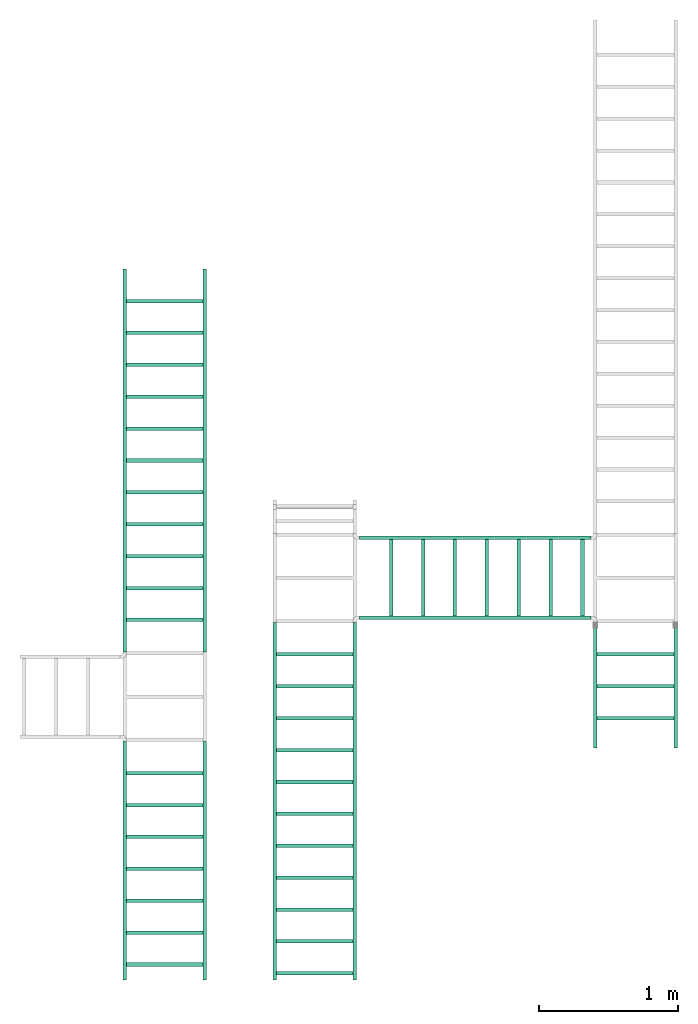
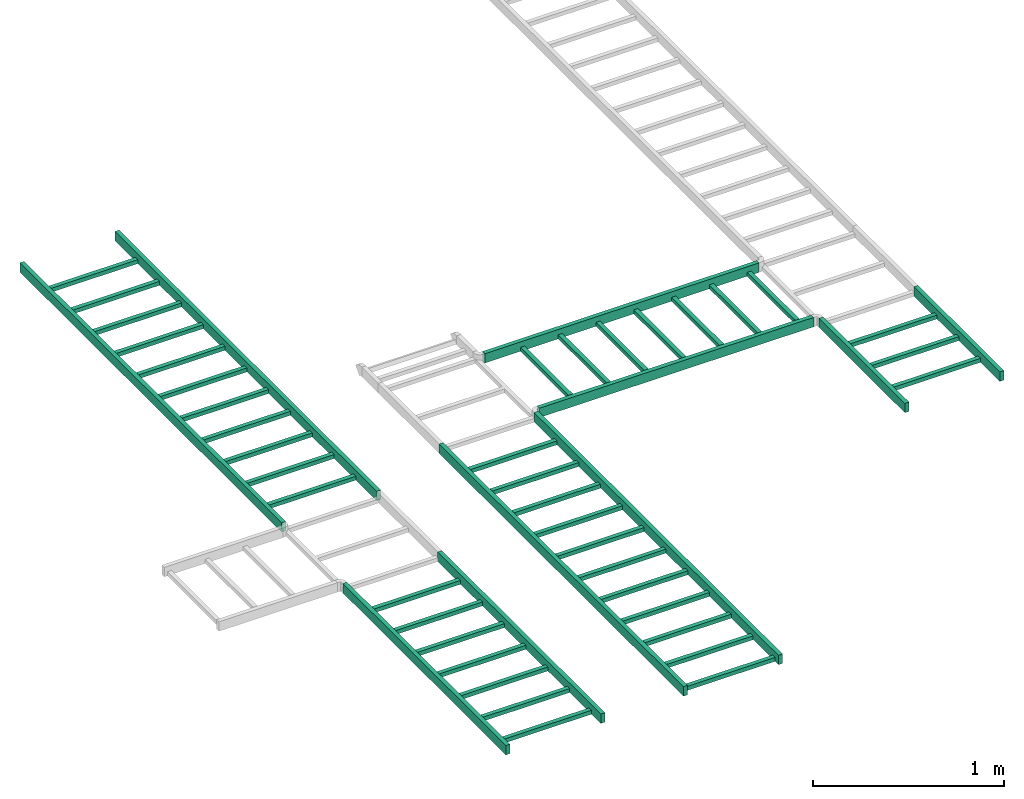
# One storey, part 2 of 3: 5 flow segments.
"""IFC2X3 building model written with IfcOpenShell, lengths in millimetres."""

from ifc_helpers import new_model, entity, si_unit, converted_unit, derived_unit, direction, frame, origin_with_axes, place, context, subcontext, project, spatial, open_shell, surface_model, source, transform, mapped, type_object, element, save


model = new_model("IFC2X3")

# Units and contexts
model_context = context("Model", 3, precision=0.01, world=frame((0.0, 4.29681676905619e-09, 0.0)), true_north=direction((4.01073788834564e-13, 1.0)))
plan_context = context("Plan", 3, precision=0.01, world=frame((0.0, 4.29681676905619e-09, 0.0)), true_north=direction((4.01073788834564e-13, 1.0)))
body_context = subcontext(model_context, "Body", "Model", "MODEL_VIEW")
ifc_project = project(units=[converted_unit("PLANEANGLEUNIT", "DEGREE", entity("IfcPositiveLengthMeasure", 0.0174532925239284), si_unit("PLANEANGLEUNIT", "RADIAN"), dimensions=[0, 0, 0, 0, 0, 0, 0]), si_unit("AREAUNIT", "SQUARE_METRE"), si_unit("LENGTHUNIT", "METRE", prefix="MILLI"), si_unit("MASSUNIT", "GRAM", prefix="KILO"), si_unit("POWERUNIT", "WATT"), si_unit("PRESSUREUNIT", "PASCAL", prefix="KILO"), si_unit("FORCEUNIT", "NEWTON", prefix="KILO"), si_unit("ELECTRICVOLTAGEUNIT", "VOLT"), si_unit("ELECTRICCURRENTUNIT", "AMPERE"), si_unit("THERMODYNAMICTEMPERATUREUNIT", "DEGREE_CELSIUS"), si_unit("TIMEUNIT", "SECOND"), si_unit("VOLUMEUNIT", "CUBIC_METRE"), derived_unit("LINEARVELOCITYUNIT", [(si_unit("LENGTHUNIT", "METRE"), 1), (si_unit("TIMEUNIT", "SECOND"), -1)]), derived_unit("VOLUMETRICFLOWRATEUNIT", [(si_unit("VOLUMEUNIT", "CUBIC_METRE"), 1), (si_unit("TIMEUNIT", "SECOND"), -1)]), derived_unit("THERMALTRANSMITTANCEUNIT", [(si_unit("POWERUNIT", "WATT"), 1), (si_unit("THERMODYNAMICTEMPERATUREUNIT", "KELVIN"), -1), (si_unit("AREAUNIT", "SQUARE_METRE"), -1)]), derived_unit("SOUNDPRESSUREUNIT", [(si_unit("PRESSUREUNIT", "PASCAL"), 1)])], contexts=[model_context, plan_context])

# Site, building, storey
site_placement = place(None, frame((0.0, -4.29681676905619e-09, 0.0), z_axis=(0.0, 0.0, 1.0), x_axis=(1.0, 0.0, 0.0)))
site = spatial("IfcSite", under=ifc_project, at=site_placement, Name="ENGM", CompositionType="ELEMENT")
building_placement = place(site_placement, frame((0.0, 4.29681676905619e-09, 0.0), z_axis=(0.0, 0.0, 1.0), x_axis=(1.0, 0.0, 0.0)))
building = spatial("IfcBuilding", under=site, at=building_placement, Name="TS", CompositionType="ELEMENT")
storey_placement = place(building_placement, frame((0.0, 0.0, 200300.0), z_axis=(0.0, 0.0, 1.0), x_axis=(1.0, 0.0, 0.0)))
storey = spatial("IfcBuildingStorey", under=building, at=storey_placement, Name="Nivå C", CompositionType="ELEMENT", Elevation=200300.0)

# Flow segments
cable_carrier_segment_type = type_object("IfcCableCarrierSegmentType", Name="Kabelbro", PredefinedType="CABLELADDERSEGMENT")
shared_shape_1 = source(origin_with_axes(), body_context, "Body", "SurfaceModel", [
    surface_model("IfcShellBasedSurfaceModel", [(0.0, -300.0, -30.0), (0.0, -300.0, 30.0), (0.0, -274.60001, 30.0), (0.0, -274.60001, -30.0), (0.0, 274.60001, -30.0), (0.0, 274.60001, 30.0), (0.0, 300.0, 30.0), (0.0, 300.0, -30.0), (215.89999, -274.60001, -30.0), (241.30001, -274.60001, -30.0), (241.30001, -274.60001, -4.6), (215.89999, -274.60001, -4.6), (241.30001, 274.60001, -4.6), (241.30001, 274.60001, -30.0), (215.89999, 274.60001, -30.0), (215.89999, 274.60001, -4.6), (444.50001, -274.60001, -30.0), (469.89999, -274.60001, -30.0), (469.89999, -274.60001, -4.6), (444.50001, -274.60001, -4.6), (469.89999, 274.60001, -4.6), (469.89999, 274.60001, -30.0), (444.50001, 274.60001, -30.0), (444.50001, 274.60001, -4.6), (673.09998, -274.60001, -30.0), (698.50002, -274.60001, -30.0), (698.50002, -274.60001, -4.6), (673.09998, -274.60001, -4.6), (698.50002, 274.60001, -4.6), (698.50002, 274.60001, -30.0), (673.09998, 274.60001, -30.0), (673.09998, 274.60001, -4.6), (901.69998, -274.60001, -30.0), (927.10002, -274.60001, -30.0), (927.10002, -274.60001, -4.6), (901.69998, -274.60001, -4.6), (927.10002, 274.60001, -4.6), (927.10002, 274.60001, -30.0), (901.69998, 274.60001, -30.0), (901.69998, 274.60001, -4.6), (1130.29998, -274.60001, -30.0), (1155.70002, -274.60001, -30.0), (1155.70002, -274.60001, -4.6), (1130.29998, -274.60001, -4.6), (1155.70002, 274.60001, -4.6), (1155.70002, 274.60001, -30.0), (1130.29998, 274.60001, -30.0), (1130.29998, 274.60001, -4.6), (1358.90005, -274.60001, -30.0), (1384.29995, -274.60001, -30.0), (1384.29995, -274.60001, -4.6), (1358.90005, -274.60001, -4.6), (1384.29995, 274.60001, -4.6), (1384.29995, 274.60001, -30.0), (1358.90005, 274.60001, -30.0), (1358.90005, 274.60001, -4.6), (1587.50005, -274.60001, -30.0), (1612.89995, -274.60001, -30.0), (1612.89995, -274.60001, -4.6), (1587.50005, -274.60001, -4.6), (1612.89995, 274.60001, -4.6), (1612.89995, 274.60001, -30.0), (1587.50005, 274.60001, -30.0), (1587.50005, 274.60001, -4.6), (1816.10005, -274.60001, -30.0), (1841.49995, -274.60001, -30.0), (1841.49995, -274.60001, -4.6), (1816.10005, -274.60001, -4.6), (1841.49995, 274.60001, -4.6), (1841.49995, 274.60001, -30.0), (1816.10005, 274.60001, -30.0), (1816.10005, 274.60001, -4.6), (2044.70005, -274.60001, -30.0), (2070.09995, -274.60001, -30.0), (2070.09995, -274.60001, -4.6), (2044.70005, -274.60001, -4.6), (2070.09995, 274.60001, -4.6), (2070.09995, 274.60001, -30.0), (2044.70005, 274.60001, -30.0), (2044.70005, 274.60001, -4.6), (2273.30005, -274.60001, -30.0), (2298.69995, -274.60001, -30.0), (2298.69995, -274.60001, -4.6), (2273.30005, -274.60001, -4.6), (2298.69995, 274.60001, -4.6), (2298.69995, 274.60001, -30.0), (2273.30005, 274.60001, -30.0), (2273.30005, 274.60001, -4.6), (2501.8999, -274.60001, -30.0), (2527.3001, -274.60001, -30.0), (2527.3001, -274.60001, -4.6), (2501.8999, -274.60001, -4.6), (2527.3001, 274.60001, -4.6), (2527.3001, 274.60001, -30.0), (2501.8999, 274.60001, -30.0), (2501.8999, 274.60001, -4.6), (2562.5805, -274.60001, 30.0), (2562.5805, -300.0, 30.0), (2562.5805, -300.0, -30.0), (2562.5805, -274.60001, -30.0), (2562.5805, 300.0, 30.0), (2562.5805, 274.60001, 30.0), (2562.5805, 274.60001, -30.0), (2562.5805, 300.0, -30.0)], [open_shell([[[0, 1, 2]], [[2, 3, 0]], [[4, 5, 6]], [[6, 7, 4]], [[8, 9, 10]], [[10, 11, 8]], [[12, 13, 14]], [[14, 15, 12]], [[10, 9, 12]], [[13, 12, 9]], [[11, 10, 15]], [[12, 15, 10]], [[8, 11, 14]], [[15, 14, 11]], [[9, 8, 13]], [[14, 13, 8]], [[16, 17, 18]], [[18, 19, 16]], [[20, 21, 22]], [[22, 23, 20]], [[18, 17, 20]], [[21, 20, 17]], [[19, 18, 23]], [[20, 23, 18]], [[16, 19, 22]], [[23, 22, 19]], [[17, 16, 21]], [[22, 21, 16]], [[24, 25, 26]], [[26, 27, 24]], [[28, 29, 30]], [[30, 31, 28]], [[26, 25, 28]], [[29, 28, 25]], [[27, 26, 31]], [[28, 31, 26]], [[24, 27, 30]], [[31, 30, 27]], [[25, 24, 29]], [[30, 29, 24]], [[32, 33, 34]], [[34, 35, 32]], [[36, 37, 38]], [[38, 39, 36]], [[34, 33, 36]], [[37, 36, 33]], [[35, 34, 39]], [[36, 39, 34]], [[32, 35, 38]], [[39, 38, 35]], [[33, 32, 37]], [[38, 37, 32]], [[40, 41, 42]], [[42, 43, 40]], [[44, 45, 46]], [[46, 47, 44]], [[42, 41, 44]], [[45, 44, 41]], [[43, 42, 47]], [[44, 47, 42]], [[40, 43, 46]], [[47, 46, 43]], [[41, 40, 45]], [[46, 45, 40]], [[48, 49, 50]], [[50, 51, 48]], [[52, 53, 54]], [[54, 55, 52]], [[50, 49, 52]], [[53, 52, 49]], [[51, 50, 55]], [[52, 55, 50]], [[48, 51, 54]], [[55, 54, 51]], [[49, 48, 53]], [[54, 53, 48]], [[56, 57, 58]], [[58, 59, 56]], [[60, 61, 62]], [[62, 63, 60]], [[58, 57, 60]], [[61, 60, 57]], [[59, 58, 63]], [[60, 63, 58]], [[56, 59, 62]], [[63, 62, 59]], [[57, 56, 61]], [[62, 61, 56]], [[64, 65, 66]], [[66, 67, 64]], [[68, 69, 70]], [[70, 71, 68]], [[66, 65, 68]], [[69, 68, 65]], [[67, 66, 71]], [[68, 71, 66]], [[64, 67, 70]], [[71, 70, 67]], [[65, 64, 69]], [[70, 69, 64]], [[72, 73, 74]], [[74, 75, 72]], [[76, 77, 78]], [[78, 79, 76]], [[74, 73, 76]], [[77, 76, 73]], [[75, 74, 79]], [[76, 79, 74]], [[72, 75, 78]], [[79, 78, 75]], [[73, 72, 77]], [[78, 77, 72]], [[80, 81, 82]], [[82, 83, 80]], [[84, 85, 86]], [[86, 87, 84]], [[82, 81, 84]], [[85, 84, 81]], [[83, 82, 87]], [[84, 87, 82]], [[80, 83, 86]], [[87, 86, 83]], [[81, 80, 85]], [[86, 85, 80]], [[88, 89, 90]], [[90, 91, 88]], [[92, 93, 94]], [[94, 95, 92]], [[90, 89, 92]], [[93, 92, 89]], [[91, 90, 95]], [[92, 95, 90]], [[88, 91, 94]], [[95, 94, 91]], [[89, 88, 93]], [[94, 93, 88]], [[96, 97, 98]], [[98, 99, 96]], [[100, 101, 102]], [[102, 103, 100]], [[1, 0, 97]], [[98, 97, 0]], [[2, 1, 97]], [[97, 96, 2]], [[3, 2, 99]], [[96, 99, 2]], [[0, 3, 99]], [[99, 98, 0]], [[7, 6, 103]], [[100, 103, 6]], [[4, 7, 103]], [[103, 102, 4]], [[5, 4, 101]], [[102, 101, 4]], [[6, 5, 101]], [[101, 100, 6]]])]),
])
flow_segment_1_placement = place(storey_placement, frame((597037.74959, 401025.46354, 2730.0), z_axis=(0.0, 0.0, 1.0), x_axis=(0.0, -1.0, 0.0)))
element("IfcFlowSegment", 1, at=flow_segment_1_placement, inside=storey, type_object=cable_carrier_segment_type, Name="Kabelbro", context=body_context, shape_type="MappedRepresentation", body=[
    mapped(shared_shape_1, transform((0.0, 0.0, 0.0), scale=1.0)),
])
shared_shape_2 = source(origin_with_axes(), body_context, "Body", "SurfaceModel", [
    surface_model("IfcShellBasedSurfaceModel", [(241.30001, -274.60001, -4.6), (241.30001, -274.60001, -30.0), (241.30001, 274.60001, -4.6), (241.30001, 274.60001, -30.0), (215.89999, -274.60001, -4.6), (215.89999, 274.60001, -4.6), (215.89999, -274.60001, -30.0), (215.89999, 274.60001, -30.0), (469.89999, -274.60001, -4.6), (469.89999, -274.60001, -30.0), (469.89999, 274.60001, -4.6), (469.89999, 274.60001, -30.0), (444.50001, -274.60001, -4.6), (444.50001, 274.60001, -4.6), (444.50001, -274.60001, -30.0), (444.50001, 274.60001, -30.0), (698.50002, -274.60001, -4.6), (698.50002, -274.60001, -30.0), (698.50002, 274.60001, -4.6), (698.50002, 274.60001, -30.0), (673.09998, -274.60001, -4.6), (673.09998, 274.60001, -4.6), (673.09998, -274.60001, -30.0), (673.09998, 274.60001, -30.0), (927.10002, -274.60001, -4.6), (927.10002, -274.60001, -30.0), (927.10002, 274.60001, -4.6), (927.10002, 274.60001, -30.0), (901.69998, -274.60001, -4.6), (901.69998, 274.60001, -4.6), (901.69998, -274.60001, -30.0), (901.69998, 274.60001, -30.0), (1155.70002, -274.60001, -4.6), (1155.70002, -274.60001, -30.0), (1155.70002, 274.60001, -4.6), (1155.70002, 274.60001, -30.0), (1130.29998, -274.60001, -4.6), (1130.29998, 274.60001, -4.6), (1130.29998, -274.60001, -30.0), (1130.29998, 274.60001, -30.0), (1384.29995, -274.60001, -4.6), (1384.29995, -274.60001, -30.0), (1384.29995, 274.60001, -4.6), (1384.29995, 274.60001, -30.0), (1358.90005, -274.60001, -4.6), (1358.90005, 274.60001, -4.6), (1358.90005, -274.60001, -30.0), (1358.90005, 274.60001, -30.0), (1612.89995, -274.60001, -4.6), (1612.89995, -274.60001, -30.0), (1612.89995, 274.60001, -4.6), (1612.89995, 274.60001, -30.0), (1587.50005, -274.60001, -4.6), (1587.50005, 274.60001, -4.6), (1587.50005, -274.60001, -30.0), (1587.50005, 274.60001, -30.0), (0.0, -274.60001, -30.0), (0.0, -300.0, -30.0), (0.0, -300.0, 30.0), (0.0, -274.60001, 30.0), (0.0, 300.0, -30.0), (0.0, 274.60001, -30.0), (0.0, 274.60001, 30.0), (0.0, 300.0, 30.0), (1660.30462, -300.0, 30.0), (1660.30462, -300.0, -30.0), (1660.30462, -274.60001, -30.0), (1660.30462, -274.60001, 30.0), (1660.30462, 274.60001, 30.0), (1660.30462, 274.60001, -30.0), (1660.30462, 300.0, -30.0), (1660.30462, 300.0, 30.0)], [open_shell([[[0, 1, 2]], [[3, 2, 1]], [[4, 0, 5]], [[2, 5, 0]], [[6, 4, 7]], [[5, 7, 4]], [[1, 6, 3]], [[7, 3, 6]], [[8, 9, 10]], [[11, 10, 9]], [[12, 8, 13]], [[10, 13, 8]], [[14, 12, 15]], [[13, 15, 12]], [[9, 14, 11]], [[15, 11, 14]], [[16, 17, 18]], [[19, 18, 17]], [[20, 16, 21]], [[18, 21, 16]], [[22, 20, 23]], [[21, 23, 20]], [[17, 22, 19]], [[23, 19, 22]], [[24, 25, 26]], [[27, 26, 25]], [[28, 24, 29]], [[26, 29, 24]], [[30, 28, 31]], [[29, 31, 28]], [[25, 30, 27]], [[31, 27, 30]], [[32, 33, 34]], [[35, 34, 33]], [[36, 32, 37]], [[34, 37, 32]], [[38, 36, 39]], [[37, 39, 36]], [[33, 38, 35]], [[39, 35, 38]], [[40, 41, 42]], [[43, 42, 41]], [[44, 40, 45]], [[42, 45, 40]], [[46, 44, 47]], [[45, 47, 44]], [[41, 46, 43]], [[47, 43, 46]], [[48, 49, 50]], [[51, 50, 49]], [[52, 48, 53]], [[50, 53, 48]], [[54, 52, 55]], [[53, 55, 52]], [[49, 54, 51]], [[55, 51, 54]], [[56, 57, 58]], [[58, 59, 56]], [[60, 61, 62]], [[62, 63, 60]], [[1, 0, 4]], [[4, 6, 1]], [[5, 2, 3]], [[3, 7, 5]], [[9, 8, 12]], [[12, 14, 9]], [[13, 10, 11]], [[11, 15, 13]], [[17, 16, 20]], [[20, 22, 17]], [[21, 18, 19]], [[19, 23, 21]], [[25, 24, 28]], [[28, 30, 25]], [[29, 26, 27]], [[27, 31, 29]], [[33, 32, 36]], [[36, 38, 33]], [[37, 34, 35]], [[35, 39, 37]], [[41, 40, 44]], [[44, 46, 41]], [[45, 42, 43]], [[43, 47, 45]], [[49, 48, 52]], [[52, 54, 49]], [[53, 50, 51]], [[51, 55, 53]], [[64, 65, 66]], [[66, 67, 64]], [[68, 69, 70]], [[70, 71, 68]], [[58, 57, 65]], [[65, 64, 58]], [[59, 58, 64]], [[64, 67, 59]], [[56, 59, 67]], [[67, 66, 56]], [[57, 56, 66]], [[66, 65, 57]], [[60, 63, 71]], [[71, 70, 60]], [[61, 60, 70]], [[70, 69, 61]], [[62, 61, 69]], [[69, 68, 62]], [[63, 62, 68]], [[68, 71, 63]]])]),
])
flow_segment_2_placement = place(storey_placement, frame((597357.74959, 401345.46354, 2730.0), z_axis=(0.0, 0.0, 1.0), x_axis=(1.0, 0.0, 0.0)))
element("IfcFlowSegment", 2, at=flow_segment_2_placement, inside=storey, type_object=cable_carrier_segment_type, Name="Kabelbro", context=body_context, shape_type="MappedRepresentation", body=[
    mapped(shared_shape_2, transform((0.0, 0.0, 0.0), scale=1.0)),
])
shared_shape_3 = source(origin_with_axes(), body_context, "Body", "SurfaceModel", [
    surface_model("IfcShellBasedSurfaceModel", [(0.0, -300.0, -30.0), (0.0, -300.0, 30.0), (0.0, -274.60001, 30.0), (0.0, -274.60001, -30.0), (0.0, 274.60001, -30.0), (0.0, 274.60001, 30.0), (0.0, 300.0, 30.0), (0.0, 300.0, -30.0), (215.89999, -274.60001, -30.0), (241.30001, -274.60001, -30.0), (241.30001, -274.60001, -4.6), (215.89999, -274.60001, -4.6), (241.30001, 274.60001, -4.6), (241.30001, 274.60001, -30.0), (215.89999, 274.60001, -30.0), (215.89999, 274.60001, -4.6), (444.50001, -274.60001, -30.0), (469.89999, -274.60001, -30.0), (469.89999, -274.60001, -4.6), (444.50001, -274.60001, -4.6), (469.89999, 274.60001, -4.6), (469.89999, 274.60001, -30.0), (444.50001, 274.60001, -30.0), (444.50001, 274.60001, -4.6), (673.09998, -274.60001, -30.0), (698.50002, -274.60001, -30.0), (698.50002, -274.60001, -4.6), (673.09998, -274.60001, -4.6), (698.50002, 274.60001, -4.6), (698.50002, 274.60001, -30.0), (673.09998, 274.60001, -30.0), (673.09998, 274.60001, -4.6), (900.0, -274.60001, 30.0), (900.0, -300.0, 30.0), (900.0, -300.0, -30.0), (900.0, -274.60001, -30.0), (900.0, 300.0, 30.0), (900.0, 274.60001, 30.0), (900.0, 274.60001, -30.0), (900.0, 300.0, -30.0)], [open_shell([[[0, 1, 2]], [[2, 3, 0]], [[4, 5, 6]], [[6, 7, 4]], [[8, 9, 10]], [[10, 11, 8]], [[12, 13, 14]], [[14, 15, 12]], [[10, 9, 12]], [[13, 12, 9]], [[11, 10, 15]], [[12, 15, 10]], [[8, 11, 14]], [[15, 14, 11]], [[9, 8, 13]], [[14, 13, 8]], [[16, 17, 18]], [[18, 19, 16]], [[20, 21, 22]], [[22, 23, 20]], [[18, 17, 20]], [[21, 20, 17]], [[19, 18, 23]], [[20, 23, 18]], [[16, 19, 22]], [[23, 22, 19]], [[17, 16, 21]], [[22, 21, 16]], [[24, 25, 26]], [[26, 27, 24]], [[28, 29, 30]], [[30, 31, 28]], [[26, 25, 28]], [[29, 28, 25]], [[27, 26, 31]], [[28, 31, 26]], [[24, 27, 30]], [[31, 30, 27]], [[25, 24, 29]], [[30, 29, 24]], [[32, 33, 34]], [[34, 35, 32]], [[36, 37, 38]], [[38, 39, 36]], [[1, 0, 34]], [[34, 33, 1]], [[2, 1, 33]], [[33, 32, 2]], [[3, 2, 32]], [[32, 35, 3]], [[0, 3, 35]], [[35, 34, 0]], [[7, 6, 36]], [[36, 39, 7]], [[4, 7, 39]], [[39, 38, 4]], [[5, 4, 38]], [[38, 37, 5]], [[6, 5, 37]], [[37, 36, 6]]])]),
])
flow_segment_3_placement = place(storey_placement, frame((599338.05418, 401025.46354, 2730.0), z_axis=(0.0, 0.0, 1.0), x_axis=(0.0, -1.0, 0.0)))
element("IfcFlowSegment", 3, at=flow_segment_3_placement, inside=storey, type_object=cable_carrier_segment_type, Name="Kabelbro", context=body_context, shape_type="MappedRepresentation", body=[
    mapped(shared_shape_3, transform((0.0, 0.0, 0.0), scale=1.0)),
])
shared_shape_4 = source(origin_with_axes(), body_context, "Body", "SurfaceModel", [
    surface_model("IfcShellBasedSurfaceModel", [(0.0, -300.0, -30.0), (0.0, -300.0, 30.0), (0.0, -274.60001, 30.0), (0.0, -274.60001, -30.0), (0.0, 274.60001, -30.0), (0.0, 274.60001, 30.0), (0.0, 300.0, 30.0), (0.0, 300.0, -30.0), (215.89999, -274.60001, -30.0), (241.30001, -274.60001, -30.0), (241.30001, -274.60001, -4.6), (215.89999, -274.60001, -4.6), (241.30001, 274.60001, -4.6), (241.30001, 274.60001, -30.0), (215.89999, 274.60001, -30.0), (215.89999, 274.60001, -4.6), (444.50001, -274.60001, -30.0), (469.89999, -274.60001, -30.0), (469.89999, -274.60001, -4.6), (444.50001, -274.60001, -4.6), (469.89999, 274.60001, -4.6), (469.89999, 274.60001, -30.0), (444.50001, 274.60001, -30.0), (444.50001, 274.60001, -4.6), (673.09998, -274.60001, -30.0), (698.50002, -274.60001, -30.0), (698.50002, -274.60001, -4.6), (673.09998, -274.60001, -4.6), (698.50002, 274.60001, -4.6), (698.50002, 274.60001, -30.0), (673.09998, 274.60001, -30.0), (673.09998, 274.60001, -4.6), (901.69998, -274.60001, -30.0), (927.10002, -274.60001, -30.0), (927.10002, -274.60001, -4.6), (901.69998, -274.60001, -4.6), (927.10002, 274.60001, -4.6), (927.10002, 274.60001, -30.0), (901.69998, 274.60001, -30.0), (901.69998, 274.60001, -4.6), (1130.29998, -274.60001, -30.0), (1155.70002, -274.60001, -30.0), (1155.70002, -274.60001, -4.6), (1130.29998, -274.60001, -4.6), (1155.70002, 274.60001, -4.6), (1155.70002, 274.60001, -30.0), (1130.29998, 274.60001, -30.0), (1130.29998, 274.60001, -4.6), (1358.90005, -274.60001, -30.0), (1384.29995, -274.60001, -30.0), (1384.29995, -274.60001, -4.6), (1358.90005, -274.60001, -4.6), (1384.29995, 274.60001, -4.6), (1384.29995, 274.60001, -30.0), (1358.90005, 274.60001, -30.0), (1358.90005, 274.60001, -4.6), (1587.50005, -274.60001, -30.0), (1612.89995, -274.60001, -30.0), (1612.89995, -274.60001, -4.6), (1587.50005, -274.60001, -4.6), (1612.89995, 274.60001, -4.6), (1612.89995, 274.60001, -30.0), (1587.50005, 274.60001, -30.0), (1587.50005, 274.60001, -4.6), (1711.19264, -274.60001, 30.0), (1711.19264, -300.0, 30.0), (1711.19264, -300.0, -30.0), (1711.19264, -274.60001, -30.0), (1711.19264, 300.0, 30.0), (1711.19264, 274.60001, 30.0), (1711.19264, 274.60001, -30.0), (1711.19264, 300.0, -30.0)], [open_shell([[[0, 1, 2]], [[2, 3, 0]], [[4, 5, 6]], [[6, 7, 4]], [[8, 9, 10]], [[10, 11, 8]], [[12, 13, 14]], [[14, 15, 12]], [[10, 9, 12]], [[13, 12, 9]], [[11, 10, 15]], [[12, 15, 10]], [[8, 11, 14]], [[15, 14, 11]], [[9, 8, 13]], [[14, 13, 8]], [[16, 17, 18]], [[18, 19, 16]], [[20, 21, 22]], [[22, 23, 20]], [[18, 17, 20]], [[21, 20, 17]], [[19, 18, 23]], [[20, 23, 18]], [[16, 19, 22]], [[23, 22, 19]], [[17, 16, 21]], [[22, 21, 16]], [[24, 25, 26]], [[26, 27, 24]], [[28, 29, 30]], [[30, 31, 28]], [[26, 25, 28]], [[29, 28, 25]], [[27, 26, 31]], [[28, 31, 26]], [[24, 27, 30]], [[31, 30, 27]], [[25, 24, 29]], [[30, 29, 24]], [[32, 33, 34]], [[34, 35, 32]], [[36, 37, 38]], [[38, 39, 36]], [[34, 33, 36]], [[37, 36, 33]], [[35, 34, 39]], [[36, 39, 34]], [[32, 35, 38]], [[39, 38, 35]], [[33, 32, 37]], [[38, 37, 32]], [[40, 41, 42]], [[42, 43, 40]], [[44, 45, 46]], [[46, 47, 44]], [[42, 41, 44]], [[45, 44, 41]], [[43, 42, 47]], [[44, 47, 42]], [[40, 43, 46]], [[47, 46, 43]], [[41, 40, 45]], [[46, 45, 40]], [[48, 49, 50]], [[50, 51, 48]], [[52, 53, 54]], [[54, 55, 52]], [[50, 49, 52]], [[53, 52, 49]], [[51, 50, 55]], [[52, 55, 50]], [[48, 51, 54]], [[55, 54, 51]], [[49, 48, 53]], [[54, 53, 48]], [[56, 57, 58]], [[58, 59, 56]], [[60, 61, 62]], [[62, 63, 60]], [[58, 57, 60]], [[61, 60, 57]], [[59, 58, 63]], [[60, 63, 58]], [[56, 59, 62]], [[63, 62, 59]], [[57, 56, 61]], [[62, 61, 56]], [[64, 65, 66]], [[66, 67, 64]], [[68, 69, 70]], [[70, 71, 68]], [[1, 0, 65]], [[66, 65, 0]], [[2, 1, 65]], [[65, 64, 2]], [[3, 2, 67]], [[64, 67, 2]], [[0, 3, 67]], [[67, 66, 0]], [[7, 6, 71]], [[68, 71, 6]], [[4, 7, 71]], [[71, 70, 4]], [[5, 4, 69]], [[70, 69, 4]], [[6, 5, 69]], [[69, 68, 6]]])]),
])
flow_segment_4_placement = place(storey_placement, frame((595962.86926, 400174.07572, 2730.0), z_axis=(0.0, 0.0, 1.0), x_axis=(0.0, -1.0, 0.0)))
element("IfcFlowSegment", 4, at=flow_segment_4_placement, inside=storey, type_object=cable_carrier_segment_type, Name="Kabelbro", context=body_context, shape_type="MappedRepresentation", body=[
    mapped(shared_shape_4, transform((0.0, 0.0, 0.0), scale=1.0)),
])
shared_shape_5 = source(origin_with_axes(), body_context, "Body", "SurfaceModel", [
    surface_model("IfcShellBasedSurfaceModel", [(0.0, -300.0, -30.0), (0.0, -300.0, 30.0), (0.0, -274.60001, 30.0), (0.0, -274.60001, -30.0), (0.0, 274.60001, -30.0), (0.0, 274.60001, 30.0), (0.0, 300.0, 30.0), (0.0, 300.0, -30.0), (215.89999, -274.60001, -30.0), (241.30001, -274.60001, -30.0), (241.30001, -274.60001, -4.6), (215.89999, -274.60001, -4.6), (241.30001, 274.60001, -4.6), (241.30001, 274.60001, -30.0), (215.89999, 274.60001, -30.0), (215.89999, 274.60001, -4.6), (444.50001, -274.60001, -30.0), (469.89999, -274.60001, -30.0), (469.89999, -274.60001, -4.6), (444.50001, -274.60001, -4.6), (469.89999, 274.60001, -4.6), (469.89999, 274.60001, -30.0), (444.50001, 274.60001, -30.0), (444.50001, 274.60001, -4.6), (673.09998, -274.60001, -30.0), (698.50002, -274.60001, -30.0), (698.50002, -274.60001, -4.6), (673.09998, -274.60001, -4.6), (698.50002, 274.60001, -4.6), (698.50002, 274.60001, -30.0), (673.09998, 274.60001, -30.0), (673.09998, 274.60001, -4.6), (901.69998, -274.60001, -30.0), (927.10002, -274.60001, -30.0), (927.10002, -274.60001, -4.6), (901.69998, -274.60001, -4.6), (927.10002, 274.60001, -4.6), (927.10002, 274.60001, -30.0), (901.69998, 274.60001, -30.0), (901.69998, 274.60001, -4.6), (1130.29998, -274.60001, -30.0), (1155.70002, -274.60001, -30.0), (1155.70002, -274.60001, -4.6), (1130.29998, -274.60001, -4.6), (1155.70002, 274.60001, -4.6), (1155.70002, 274.60001, -30.0), (1130.29998, 274.60001, -30.0), (1130.29998, 274.60001, -4.6), (1358.90005, -274.60001, -30.0), (1384.29995, -274.60001, -30.0), (1384.29995, -274.60001, -4.6), (1358.90005, -274.60001, -4.6), (1384.29995, 274.60001, -4.6), (1384.29995, 274.60001, -30.0), (1358.90005, 274.60001, -30.0), (1358.90005, 274.60001, -4.6), (1587.50005, -274.60001, -30.0), (1612.89995, -274.60001, -30.0), (1612.89995, -274.60001, -4.6), (1587.50005, -274.60001, -4.6), (1612.89995, 274.60001, -4.6), (1612.89995, 274.60001, -30.0), (1587.50005, 274.60001, -30.0), (1587.50005, 274.60001, -4.6), (1816.10005, -274.60001, -30.0), (1841.49995, -274.60001, -30.0), (1841.49995, -274.60001, -4.6), (1816.10005, -274.60001, -4.6), (1841.49995, 274.60001, -4.6), (1841.49995, 274.60001, -30.0), (1816.10005, 274.60001, -30.0), (1816.10005, 274.60001, -4.6), (2044.70005, -274.60001, -30.0), (2070.09995, -274.60001, -30.0), (2070.09995, -274.60001, -4.6), (2044.70005, -274.60001, -4.6), (2070.09995, 274.60001, -4.6), (2070.09995, 274.60001, -30.0), (2044.70005, 274.60001, -30.0), (2044.70005, 274.60001, -4.6), (2273.30005, -274.60001, -30.0), (2298.69995, -274.60001, -30.0), (2298.69995, -274.60001, -4.6), (2273.30005, -274.60001, -4.6), (2298.69995, 274.60001, -4.6), (2298.69995, 274.60001, -30.0), (2273.30005, 274.60001, -30.0), (2273.30005, 274.60001, -4.6), (2501.8999, -274.60001, -30.0), (2527.3001, -274.60001, -30.0), (2527.3001, -274.60001, -4.6), (2501.8999, -274.60001, -4.6), (2527.3001, 274.60001, -4.6), (2527.3001, 274.60001, -30.0), (2501.8999, 274.60001, -30.0), (2501.8999, 274.60001, -4.6), (2744.69584, -274.60001, 30.0), (2744.69584, -300.0, 30.0), (2744.69584, -300.0, -30.0), (2744.69584, -274.60001, -30.0), (2744.69584, 300.0, 30.0), (2744.69584, 274.60001, 30.0), (2744.69584, 274.60001, -30.0), (2744.69584, 300.0, -30.0)], [open_shell([[[0, 1, 2]], [[2, 3, 0]], [[4, 5, 6]], [[6, 7, 4]], [[8, 9, 10]], [[10, 11, 8]], [[12, 13, 14]], [[14, 15, 12]], [[10, 9, 12]], [[13, 12, 9]], [[11, 10, 15]], [[12, 15, 10]], [[8, 11, 14]], [[15, 14, 11]], [[9, 8, 13]], [[14, 13, 8]], [[16, 17, 18]], [[18, 19, 16]], [[20, 21, 22]], [[22, 23, 20]], [[18, 17, 20]], [[21, 20, 17]], [[19, 18, 23]], [[20, 23, 18]], [[16, 19, 22]], [[23, 22, 19]], [[17, 16, 21]], [[22, 21, 16]], [[24, 25, 26]], [[26, 27, 24]], [[28, 29, 30]], [[30, 31, 28]], [[26, 25, 28]], [[29, 28, 25]], [[27, 26, 31]], [[28, 31, 26]], [[24, 27, 30]], [[31, 30, 27]], [[25, 24, 29]], [[30, 29, 24]], [[32, 33, 34]], [[34, 35, 32]], [[36, 37, 38]], [[38, 39, 36]], [[34, 33, 36]], [[37, 36, 33]], [[35, 34, 39]], [[36, 39, 34]], [[32, 35, 38]], [[39, 38, 35]], [[33, 32, 37]], [[38, 37, 32]], [[40, 41, 42]], [[42, 43, 40]], [[44, 45, 46]], [[46, 47, 44]], [[42, 41, 44]], [[45, 44, 41]], [[43, 42, 47]], [[44, 47, 42]], [[40, 43, 46]], [[47, 46, 43]], [[41, 40, 45]], [[46, 45, 40]], [[48, 49, 50]], [[50, 51, 48]], [[52, 53, 54]], [[54, 55, 52]], [[50, 49, 52]], [[53, 52, 49]], [[51, 50, 55]], [[52, 55, 50]], [[48, 51, 54]], [[55, 54, 51]], [[49, 48, 53]], [[54, 53, 48]], [[56, 57, 58]], [[58, 59, 56]], [[60, 61, 62]], [[62, 63, 60]], [[58, 57, 60]], [[61, 60, 57]], [[59, 58, 63]], [[60, 63, 58]], [[56, 59, 62]], [[63, 62, 59]], [[57, 56, 61]], [[62, 61, 56]], [[64, 65, 66]], [[66, 67, 64]], [[68, 69, 70]], [[70, 71, 68]], [[66, 65, 68]], [[69, 68, 65]], [[67, 66, 71]], [[68, 71, 66]], [[64, 67, 70]], [[71, 70, 67]], [[65, 64, 69]], [[70, 69, 64]], [[72, 73, 74]], [[74, 75, 72]], [[76, 77, 78]], [[78, 79, 76]], [[74, 73, 76]], [[77, 76, 73]], [[75, 74, 79]], [[76, 79, 74]], [[72, 75, 78]], [[79, 78, 75]], [[73, 72, 77]], [[78, 77, 72]], [[80, 81, 82]], [[82, 83, 80]], [[84, 85, 86]], [[86, 87, 84]], [[82, 81, 84]], [[85, 84, 81]], [[83, 82, 87]], [[84, 87, 82]], [[80, 83, 86]], [[87, 86, 83]], [[81, 80, 85]], [[86, 85, 80]], [[88, 89, 90]], [[90, 91, 88]], [[92, 93, 94]], [[94, 95, 92]], [[90, 89, 92]], [[93, 92, 89]], [[91, 90, 95]], [[92, 95, 90]], [[88, 91, 94]], [[95, 94, 91]], [[89, 88, 93]], [[94, 93, 88]], [[96, 97, 98]], [[98, 99, 96]], [[100, 101, 102]], [[102, 103, 100]], [[1, 0, 97]], [[98, 97, 0]], [[2, 1, 97]], [[97, 96, 2]], [[3, 2, 99]], [[96, 99, 2]], [[0, 3, 99]], [[99, 98, 0]], [[7, 6, 103]], [[100, 103, 6]], [[4, 7, 103]], [[103, 102, 4]], [[5, 4, 101]], [[102, 101, 4]], [[6, 5, 101]], [[101, 100, 6]]])]),
])
flow_segment_5_placement = place(storey_placement, frame((595962.86926, 403558.77147, 2730.0), z_axis=(0.0, 0.0, 1.0), x_axis=(0.0, -1.0, 0.0)))
element("IfcFlowSegment", 5, at=flow_segment_5_placement, inside=storey, type_object=cable_carrier_segment_type, Name="Kabelbro", context=body_context, shape_type="MappedRepresentation", body=[
    mapped(shared_shape_5, transform((0.0, 0.0, 0.0), scale=1.0)),
])

save(model, "model.ifc")
